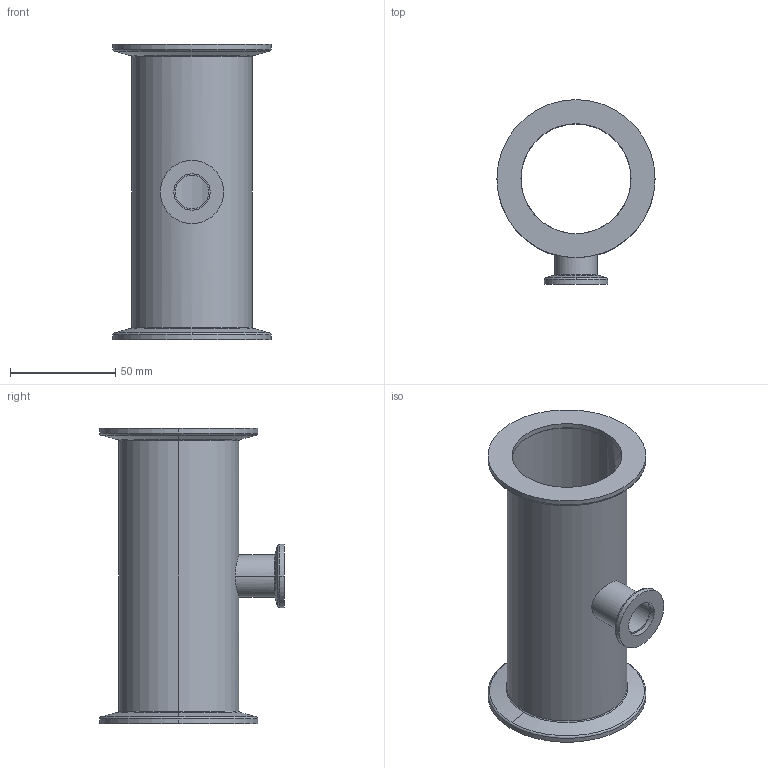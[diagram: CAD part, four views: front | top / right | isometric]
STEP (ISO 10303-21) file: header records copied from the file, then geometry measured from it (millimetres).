
FILE_DESCRIPTION((''),'2;1');
FILE_NAME('W:\211-319.stp','2003-10-10T12:59:45',('KAA'),(''),'Autodesk Inventor (R) 6.0','Autodesk Inventor (R) 6.0','');
FILE_SCHEMA(('CONFIG_CONTROL_DESIGN'));
Length unit declared in the file: millimetre
Products named in the file (1): 211-319
Bounding box: 75 x 87.5 x 140 mm (x, y, z)
Volume: 67640 mm3; surface area: 59235.4 mm2
Topology: 1 solids, 1 shells, 44 faces, 114 edges, 76 vertices
Faces by surface type: cylinder 18, bspline 8, torus 6, cone 6, plane 6
Entity records: 1831 total; most frequent: CARTESIAN_POINT 601, DIRECTION 268, ORIENTED_EDGE 228, AXIS2_PLACEMENT_3D 121, EDGE_CURVE 114, CIRCLE 84, VERTEX_POINT 76, EDGE_LOOP 52
